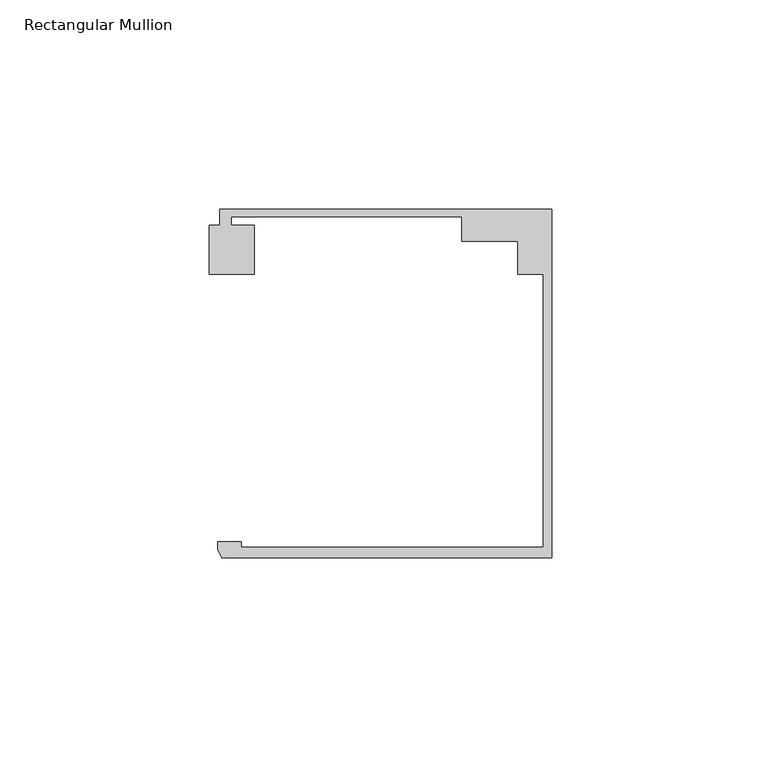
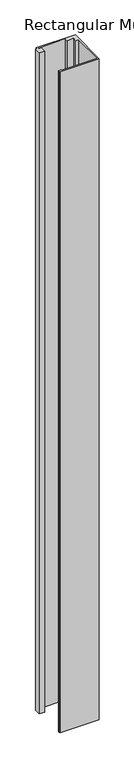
"""IFC4 building model written with IfcOpenShell, lengths in millimetres: member geometry, Rectangular Mullion : Danpal_Airpt_End-Mullion_B2."""

from ifc_helpers import new_model, si_unit, frame, origin, place, context, project, spatial, polyline, outline, extrude, source, transform, mapped, element, save


def rectangular_mullion_a26f31a5(model_context):
    return source(origin(), model_context, "Body", "SweptSolid", [
        extrude(outline(polyline([(39.9953159, -74.9940824), (39.9953159, -9.7188964), (33.895316, -9.7188964), (33.895316, -1.8818054), (20.4474994, -1.8818054), (20.4474994, 4.0051512), (-34.6525006, 4.0051512), (-34.6525006, 2.0051513), (-29.1480372, 2.0051513), (-29.1480372, -9.6875514), (-39.8639164, -9.6875514), (-39.8639164, 2.0051513), (-37.3521714, 2.0051513), (-37.3521714, 5.8051514), (41.995316, 5.8051514), (41.995316, -77.4940825), (-36.8561849, -77.4940825), (-37.7831446, -75.5472671), (-37.7831446, -73.6940824), (-32.2521508, -73.6940824), (-32.2521508, -74.9940824), (39.9953159, -74.9940824)])), frame((0.0, 0.0, -1408.063098), z_axis=(0.0, 0.0, 1.0), x_axis=(1.0, 0.0, 0.0)), (0.0, 0.0, 1.0), 1408.063098),
    ])


if __name__ == "__main__":
    model = new_model("IFC4")
    model_context = context("Model", 3, world=origin())
    ifc_project = project(units=[si_unit("LENGTHUNIT", "METRE", prefix="MILLI")], contexts=[model_context])
    site = spatial("IfcSite", under=ifc_project)
    building = spatial("IfcBuilding", under=site)
    placement = place(None, origin())
    rectangular_mullion_shape = rectangular_mullion_a26f31a5(model_context)
    element("IfcMember", 1, ObjectType="Rectangular Mullion : Danpal_Airpt_End-Mullion_B2", at=placement, inside=building, context=model_context, shape_type="MappedRepresentation", body=[
        mapped(rectangular_mullion_shape, transform((0.0, 0.0, 0.0), x_axis=(1.0, 0.0, 0.0), y_axis=(0.0, 1.0, 0.0), z_axis=(0.0, 0.0, 1.0))),
    ])
    save(model, "model.ifc")
